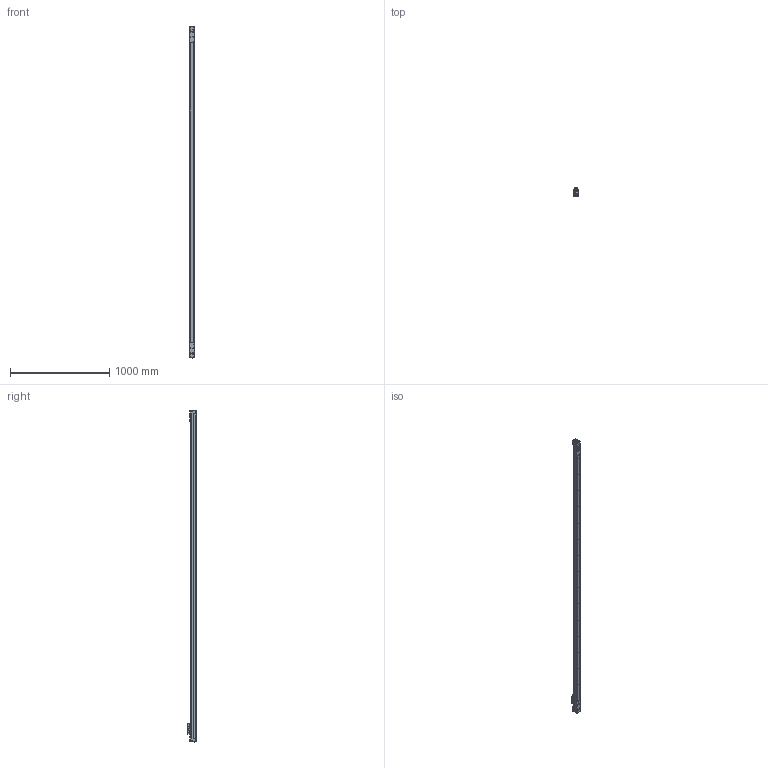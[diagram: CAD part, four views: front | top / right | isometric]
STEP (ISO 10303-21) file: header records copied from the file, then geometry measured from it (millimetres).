
FILE_DESCRIPTION(('Creo Elements/Direct Modeling STEP Export'),'2;1');
FILE_NAME('Regla L-30.stp','2011-10-03T10:16:36',(''),(''),'Creo Elements/Direct Modeling STEP processor for AP214 (Solid Model)','Creo Elements/Direct Modeling 17.0C 05-Feb-2011 (C) Parametric Technology GmbH','');
FILE_SCHEMA(('AUTOMOTIVE_DESIGN { 1 0 10303 214 1 1 1 1 }'));
Length unit declared in the file: millimetre
Products named in the file (3): L-30_CABEZA; L-30_PERFIL; L-30
Assembly tree (2 placements, depth 2):
  L-30
    L-30_PERFIL
    L-30_CABEZA
Bounding box: 50 x 86.45 x 3349.1 mm (x, y, z)
Volume: 8579061.2 mm3; surface area: 1026309.2 mm2
Topology: 3 solids, 21 shells, 2358 faces, 6761 edges, 4450 vertices
Faces by surface type: cylinder 1091, plane 1048, cone 114, torus 78, sphere 18, bspline 9
Entity records: 85114 total; most frequent: CARTESIAN_POINT 23470, ORIENTED_EDGE 13490, DIRECTION 11351, EDGE_CURVE 6745, VERTEX_POINT 4448, AXIS2_PLACEMENT_3D 3844, VECTOR 3663, LINE 3663
